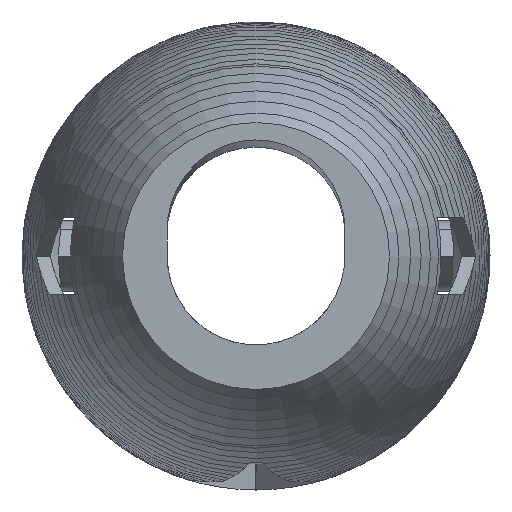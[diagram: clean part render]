
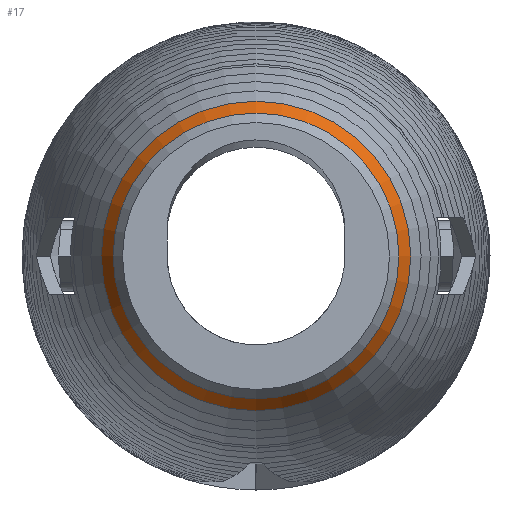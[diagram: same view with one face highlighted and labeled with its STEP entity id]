
A CAD part, left-side view. The second image highlights one B-rep face of the part: STEP entity #17.
In plain terms, the highlighted conical face has half-angle 29.984 degrees and reference radius 12.219 mm.
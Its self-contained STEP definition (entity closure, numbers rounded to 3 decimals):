
#17 = ADVANCED_FACE('',(#18),#32,.T.);
#18 = FACE_BOUND('',#19,.T.);
#19 = EDGE_LOOP('',(#20,#50,#76,#77));
#20 = ORIENTED_EDGE('',*,*,#21,.F.);
#21 = EDGE_CURVE('',#22,#24,#26,.T.);
#22 = VERTEX_POINT('',#23);
#23 = CARTESIAN_POINT('',(8.75,12.219,0.));
#24 = VERTEX_POINT('',#25);
#25 = CARTESIAN_POINT('',(10.5,13.229,0.));
#26 = SEAM_CURVE('',#27,(#31,#43),.PCURVE_S1.);
#27 = LINE('',#28,#29);
#28 = CARTESIAN_POINT('',(8.75,12.219,0.));
#29 = VECTOR('',#30,1.);
#30 = DIRECTION('',(0.866,0.5,0.));
#31 = PCURVE('',#32,#37);
#32 = CONICAL_SURFACE('',#33,12.219,0.523);
#33 = AXIS2_PLACEMENT_3D('',#34,#35,#36);
#34 = CARTESIAN_POINT('',(8.75,0.,0.));
#35 = DIRECTION('',(1.,0.,0.));
#36 = DIRECTION('',(-0.,1.,0.));
#37 = DEFINITIONAL_REPRESENTATION('',(#38),#42);
#38 = LINE('',#39,#40);
#39 = CARTESIAN_POINT('',(0.,0.));
#40 = VECTOR('',#41,1.);
#41 = DIRECTION('',(0.,1.));
#42 = ( GEOMETRIC_REPRESENTATION_CONTEXT(2) 
PARAMETRIC_REPRESENTATION_CONTEXT() REPRESENTATION_CONTEXT('2D SPACE',''
  ) );
#43 = PCURVE('',#32,#44);
#44 = DEFINITIONAL_REPRESENTATION('',(#45),#49);
#45 = LINE('',#46,#47);
#46 = CARTESIAN_POINT('',(6.283,0.));
#47 = VECTOR('',#48,1.);
#48 = DIRECTION('',(0.,1.));
#49 = ( GEOMETRIC_REPRESENTATION_CONTEXT(2) 
PARAMETRIC_REPRESENTATION_CONTEXT() REPRESENTATION_CONTEXT('2D SPACE',''
  ) );
#50 = ORIENTED_EDGE('',*,*,#51,.T.);
#51 = EDGE_CURVE('',#22,#22,#52,.T.);
#52 = SURFACE_CURVE('',#53,(#58,#65),.PCURVE_S1.);
#53 = CIRCLE('',#54,12.219);
#54 = AXIS2_PLACEMENT_3D('',#55,#56,#57);
#55 = CARTESIAN_POINT('',(8.75,0.,0.));
#56 = DIRECTION('',(1.,0.,0.));
#57 = DIRECTION('',(-0.,1.,0.));
#58 = PCURVE('',#32,#59);
#59 = DEFINITIONAL_REPRESENTATION('',(#60),#64);
#60 = LINE('',#61,#62);
#61 = CARTESIAN_POINT('',(0.,0.));
#62 = VECTOR('',#63,1.);
#63 = DIRECTION('',(1.,0.));
#64 = ( GEOMETRIC_REPRESENTATION_CONTEXT(2) 
PARAMETRIC_REPRESENTATION_CONTEXT() REPRESENTATION_CONTEXT('2D SPACE',''
  ) );
#65 = PCURVE('',#66,#71);
#66 = CONICAL_SURFACE('',#67,11.406,0.577);
#67 = AXIS2_PLACEMENT_3D('',#68,#69,#70);
#68 = CARTESIAN_POINT('',(7.5,0.,0.));
#69 = DIRECTION('',(1.,0.,0.));
#70 = DIRECTION('',(-0.,1.,0.));
#71 = DEFINITIONAL_REPRESENTATION('',(#72),#75);
#72 = B_SPLINE_CURVE_WITH_KNOTS('',1,(#73,#74),.UNSPECIFIED.,.F.,.F.,(2,
    2),(0.,6.283),.PIECEWISE_BEZIER_KNOTS.);
#73 = CARTESIAN_POINT('',(0.,1.25));
#74 = CARTESIAN_POINT('',(6.283,1.25));
#75 = ( GEOMETRIC_REPRESENTATION_CONTEXT(2) 
PARAMETRIC_REPRESENTATION_CONTEXT() REPRESENTATION_CONTEXT('2D SPACE',''
  ) );
#76 = ORIENTED_EDGE('',*,*,#21,.T.);
#77 = ORIENTED_EDGE('',*,*,#78,.F.);
#78 = EDGE_CURVE('',#24,#24,#79,.T.);
#79 = SURFACE_CURVE('',#80,(#85,#92),.PCURVE_S1.);
#80 = CIRCLE('',#81,13.229);
#81 = AXIS2_PLACEMENT_3D('',#82,#83,#84);
#82 = CARTESIAN_POINT('',(10.5,0.,0.));
#83 = DIRECTION('',(1.,0.,0.));
#84 = DIRECTION('',(-0.,1.,0.));
#85 = PCURVE('',#32,#86);
#86 = DEFINITIONAL_REPRESENTATION('',(#87),#91);
#87 = LINE('',#88,#89);
#88 = CARTESIAN_POINT('',(0.,1.75));
#89 = VECTOR('',#90,1.);
#90 = DIRECTION('',(1.,0.));
#91 = ( GEOMETRIC_REPRESENTATION_CONTEXT(2) 
PARAMETRIC_REPRESENTATION_CONTEXT() REPRESENTATION_CONTEXT('2D SPACE',''
  ) );
#92 = PCURVE('',#93,#98);
#93 = CONICAL_SURFACE('',#94,13.229,0.47);
#94 = AXIS2_PLACEMENT_3D('',#95,#96,#97);
#95 = CARTESIAN_POINT('',(10.5,0.,0.));
#96 = DIRECTION('',(1.,0.,0.));
#97 = DIRECTION('',(-0.,1.,0.));
#98 = DEFINITIONAL_REPRESENTATION('',(#99),#103);
#99 = LINE('',#100,#101);
#100 = CARTESIAN_POINT('',(0.,0.));
#101 = VECTOR('',#102,1.);
#102 = DIRECTION('',(1.,0.));
#103 = ( GEOMETRIC_REPRESENTATION_CONTEXT(2) 
PARAMETRIC_REPRESENTATION_CONTEXT() REPRESENTATION_CONTEXT('2D SPACE',''
  ) );
